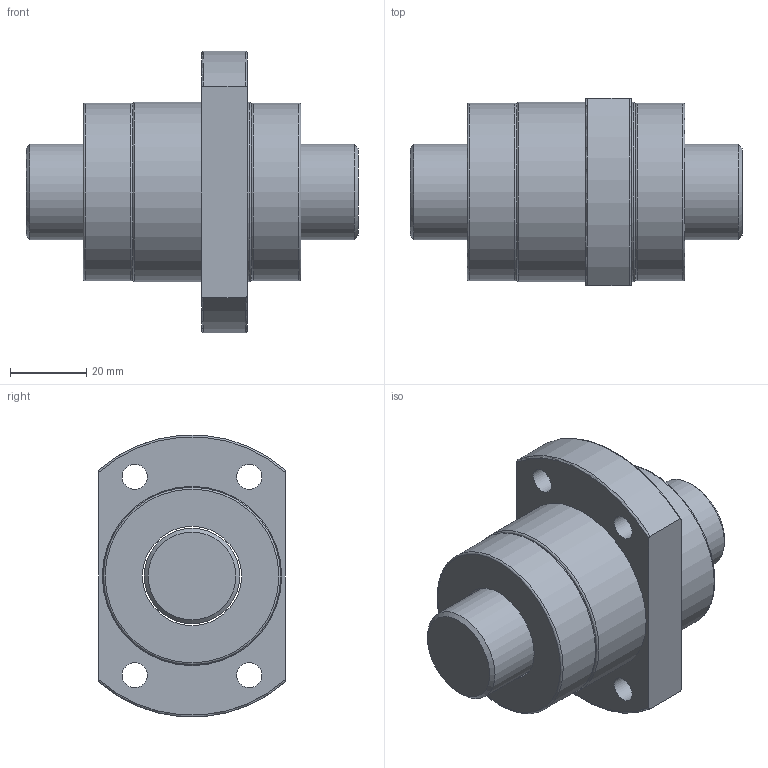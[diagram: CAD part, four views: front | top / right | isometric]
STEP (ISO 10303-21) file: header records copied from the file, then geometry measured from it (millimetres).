
FILE_DESCRIPTION(/* description */ (''),/* implementation_level */ '2;1');
FILE_NAME(/* name */ 'SFE2525',/* time_stamp */ '2007-10-26T11:57:20+08:00',/* author */ (''),/* organization */ (''),/* preprocessor_version */ 'ST-DEVELOPER v9',/* originating_system */ 'EDS PLM SOLUTIONS - UNIGRAPHICS NX 1.0',/* authorisation */ '');
FILE_SCHEMA (('CONFIG_CONTROL_DESIGN'));
Length unit declared in the file: millimetre
Products named in the file (1): FANNDA0400g3
Bounding box: 87 x 49 x 73.76 mm (x, y, z)
Volume: 127864.7 mm3; surface area: 32368.8 mm2
Topology: 4 solids, 4 shells, 38 faces, 76 edges, 48 vertices
Faces by surface type: cylinder 14, plane 12, torus 10, cone 2
Full cylindrical faces by diameter (mm): 6.6 x4, 25 x1, 26 x3, 46.5 x2, 47 x2
Entity records: 1126 total; most frequent: CARTESIAN_POINT 281, DIRECTION 166, ORIENTED_EDGE 112, AXIS2_PLACEMENT_3D 79, EDGE_LOOP 74, EDGE_CURVE 56, FACE_BOUND 54, VERTEX_POINT 48
